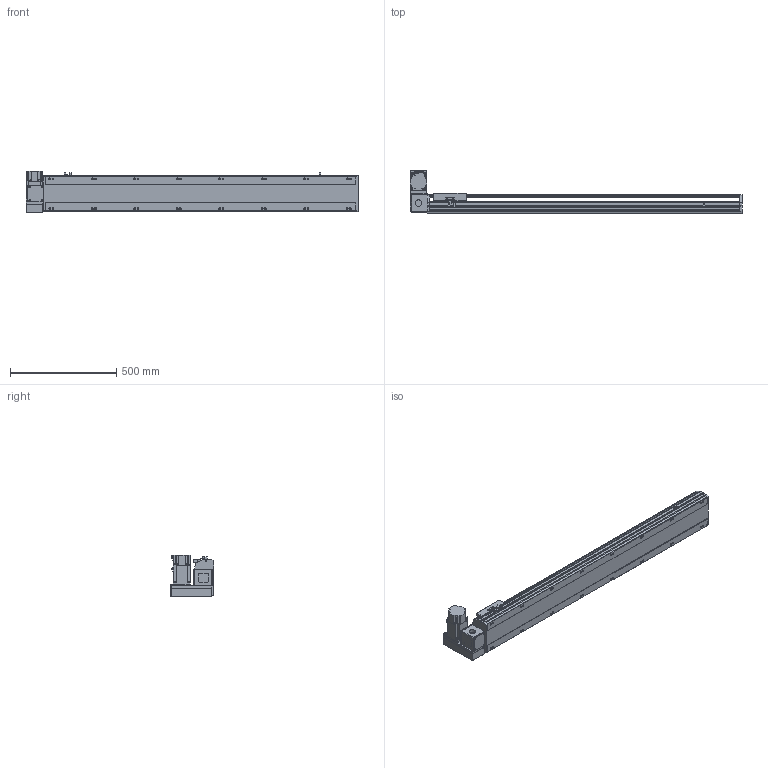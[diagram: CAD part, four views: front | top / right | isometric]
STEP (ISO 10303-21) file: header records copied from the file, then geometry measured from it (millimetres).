
FILE_DESCRIPTION(/* description */ ('STEP AP214'),/* implementation_level */ '2;1');
FILE_NAME(/* name */ 'PBS170-P40-S1200-LU-T75-C1-N(0)',/* time_stamp */ '2022-06-07T10:15:43+02:00',/* author */ ('License CC BY-ND 4.0'),/* organization */ ('CADENAS'),/* preprocessor_version */ 'ST-DEVELOPER v18.102',/* originating_system */ 'PARTsolutions',/* authorisation */ ' ');
FILE_SCHEMA (('AUTOMOTIVE_DESIGN {1 0 10303 214 3 1 1}'));
Length unit declared in the file: millimetre
Products named in the file (7): PBS170-P40-S1200-LU-T75-C1-N(0); PBS170_sensor; PBS170_plant; PBS170_sliser; T75-p1; PBS170T-LU_motors; PBS170-S1200()_body
Assembly tree (8 placements, depth 2):
  PBS170-P40-S1200-LU-T75-C1-N(0)
    PBS170_sensor  x3
    PBS170_plant
    PBS170_sliser
    T75-p1
    PBS170T-LU_motors
    PBS170-S1200()_body
Bounding box: 1563 x 206 x 197.3 mm (x, y, z)
Volume: 12417725.1 mm3; surface area: 1611227.9 mm2
Topology: 8 solids, 8 shells, 1082 faces, 2875 edges, 1874 vertices
Faces by surface type: plane 687, cylinder 339, cone 46, sphere 8, torus 2
Full cylindrical faces by diameter (mm): 3.242 x4, 4 x2, 4.4 x4, 4.5 x6, 4.917 x4, 6 x9, 6.647 x24, 7 x2, 7.5 x4, 8 x8, 8.5 x16, 10 x4, 10.5 x16, 11 x2, 30 x2, 40 x1, 70 x1
Entity records: 31118 total; most frequent: CARTESIAN_POINT 5713, DIRECTION 5300, ORIENTED_EDGE 5028, EDGE_CURVE 2514, AXIS2_PLACEMENT_3D 1837, VERTEX_POINT 1730, LINE 1626, VECTOR 1626
